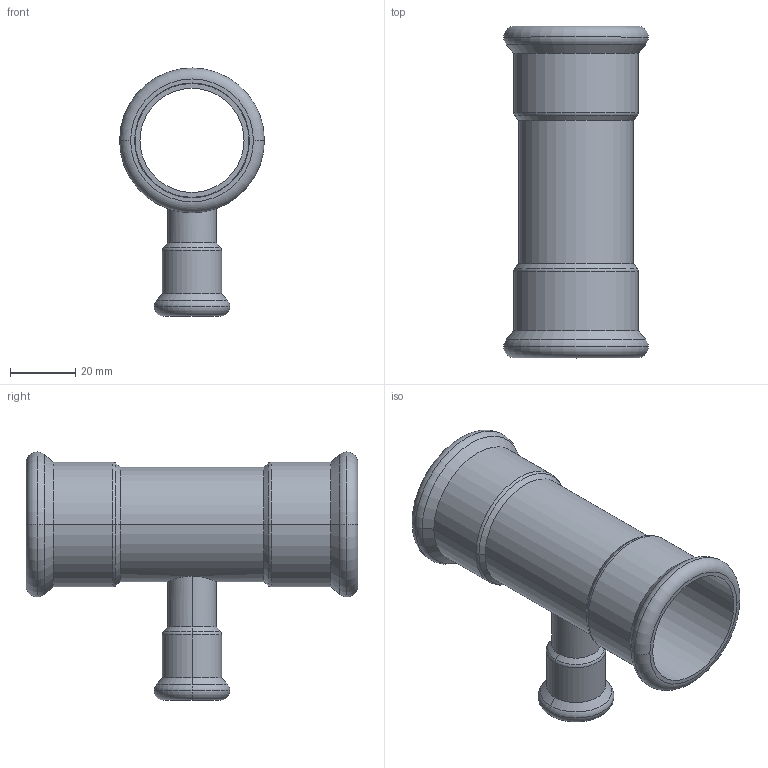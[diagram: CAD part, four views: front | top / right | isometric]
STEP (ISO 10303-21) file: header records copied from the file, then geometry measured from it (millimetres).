
FILE_DESCRIPTION(('CoCreate Modeling STEP Export'),'2;1');
FILE_NAME('C1415 35x15x35.stp','2014-11-11T17:11:07',(''),(''),'CoCreate Modeling STEP processor for AP214 (Solid Model)','CoCreate Modeling 17.00A 17-Jun-2010 (C) Parametric Technology GmbH','');
FILE_SCHEMA(('AUTOMOTIVE_DESIGN { 1 0 10303 214 1 1 1 1 }'));
Length unit declared in the file: millimetre
Products named in the file (2): C1415_35x15x35
Assembly tree (1 placements, depth 2):
  C1415_35x15x35
    C1415_35x15x35
Bounding box: 44.55 x 102 x 76.28 mm (x, y, z)
Volume: 26001.6 mm3; surface area: 28545.1 mm2
Topology: 1 solids, 1 shells, 66 faces, 133 edges, 77 vertices
Faces by surface type: cylinder 27, torus 18, cone 12, plane 9
Entity records: 2388 total; most frequent: CARTESIAN_POINT 1169, ORIENTED_EDGE 266, DIRECTION 218, EDGE_CURVE 133, AXIS2_PLACEMENT_3D 90, VERTEX_POINT 77, EDGE_LOOP 76, FACE_OUTER_BOUND 66
